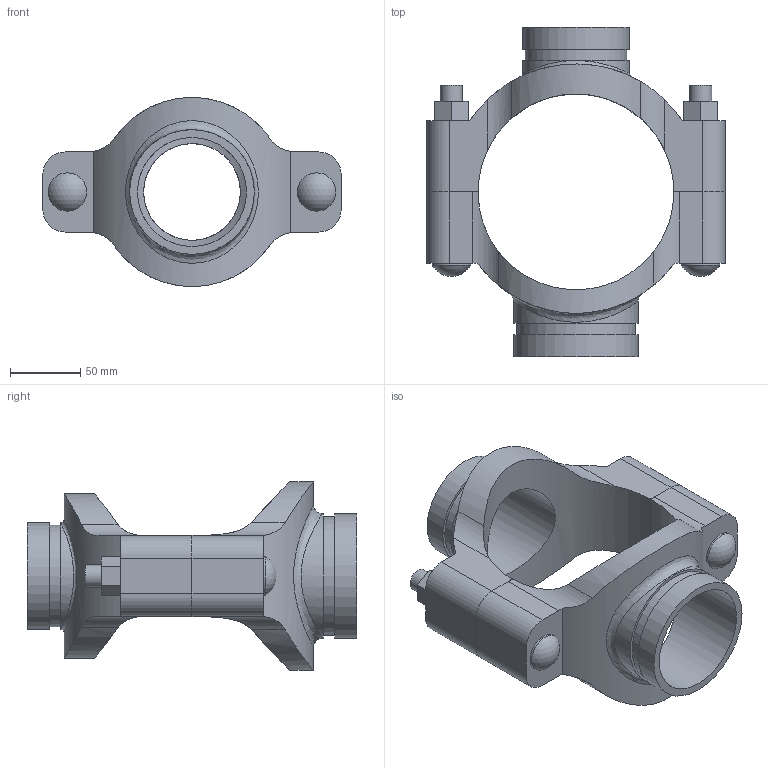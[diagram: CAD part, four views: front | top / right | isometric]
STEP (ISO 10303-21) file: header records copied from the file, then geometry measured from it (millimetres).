
FILE_DESCRIPTION(/* description */ ('VIC MECH-T BRANCH OUTLET CROSS STYLE 920N (GRVD)','CAx-IF Rec.Pracs.---Representation and Presentation of Product Manufacturing Information (PMI)---4.0---2014-10-13'),/* implementation_level */ '2;1');
FILE_NAME(/* name */ 'C:\Users\Vjadhav\AppData\Roaming\Autodesk\ApplicationPlugins\Back Up\Victaulic_IPS_Mechanical-Cross Outlet_Style 920N (OGS)\Victaulic_IPS_Mechanical-Cross Outlet_05.0 (139.7)x02.5 (76.1)x03.0 (125x65x80).stp',/* time_stamp */ '2020-08-06T19:44:08+05:00',/* author */ ('Vjadhav'),/* organization */ ('Victaulic'),/* preprocessor_version */ 'ST-DEVELOPER v17.2',/* originating_system */ 'Autodesk Inventor 2019',/* authorisation */ '');
FILE_SCHEMA (('AP242_MANAGED_MODEL_BASED_3D_ENGINEERING_MIM_LF { 1 0 10303 442 1 1 4 }'));
Length unit declared in the file: inch
Products named in the file (3): 920NG-05.0 (139.7)x02.5 (76.1)x03.0; 920G-05.0 (139.7)x02.5 (76.1); 920G-05.0 (139.7)x03.0
Assembly tree (2 placements, depth 2):
  920NG-05.0 (139.7)x02.5 (76.1)x03.0
    920G-05.0 (139.7)x02.5 (76.1)
    920G-05.0 (139.7)x03.0
Bounding box: 212.85 x 235.2 x 134.79 mm (x, y, z)
Volume: 920532.3 mm3; surface area: 177123.4 mm2
Topology: 2 solids, 2 shells, 106 faces, 268 edges, 182 vertices
Faces by surface type: plane 54, cylinder 48, sphere 2, bspline 2
Full cylindrical faces by diameter (mm): 15.875 x4, 27.381 x2, 68.986 x1, 72.263 x1, 76.2 x2, 77.787 x1, 84.938 x1, 88.9 x2
Entity records: 4266 total; most frequent: CARTESIAN_POINT 1439, DIRECTION 542, ORIENTED_EDGE 536, EDGE_CURVE 268, AXIS2_PLACEMENT_3D 197, VERTEX_POINT 182, LINE 148, VECTOR 148
